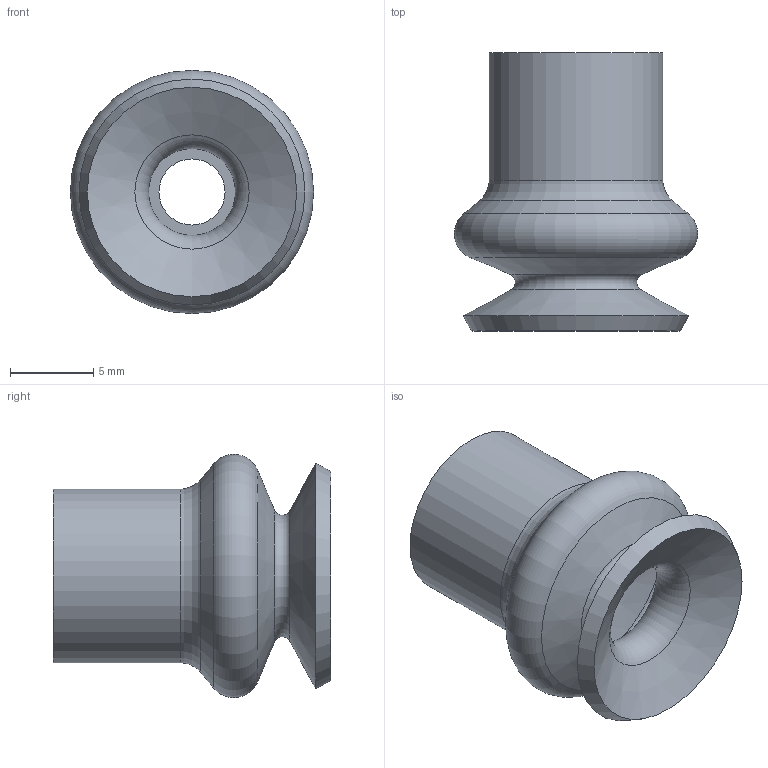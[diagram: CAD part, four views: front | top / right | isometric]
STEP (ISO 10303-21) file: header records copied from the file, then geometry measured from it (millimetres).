
FILE_DESCRIPTION (( 'STEP AP214' ), '1' );
FILE_NAME ('SB14.STEP', '2024-01-26T15:53:14', ( '' ), ( '' ), 'SwSTEP 2.0', 'SolidWorks 2018', '' );
FILE_SCHEMA (( 'AUTOMOTIVE_DESIGN' ));
Length unit declared in the file: inch
Products named in the file (1): SB14
Bounding box: 14.64 x 16.74 x 14.64 mm (x, y, z)
Volume: 1119.7 mm3; surface area: 1339.7 mm2
Topology: 1 solids, 1 shells, 16 faces, 30 edges, 16 vertices
Faces by surface type: cone 7, torus 5, plane 2, cylinder 2
Full cylindrical faces by diameter (mm): 3.975 x1, 10.462 x1
Entity records: 368 total; most frequent: DIRECTION 66, CARTESIAN_POINT 49, AXIS2_PLACEMENT_3D 33, ORIENTED_EDGE 32, EDGE_LOOP 32, FACE_OUTER_BOUND 23, VERTEX_POINT 16, CIRCLE 16
